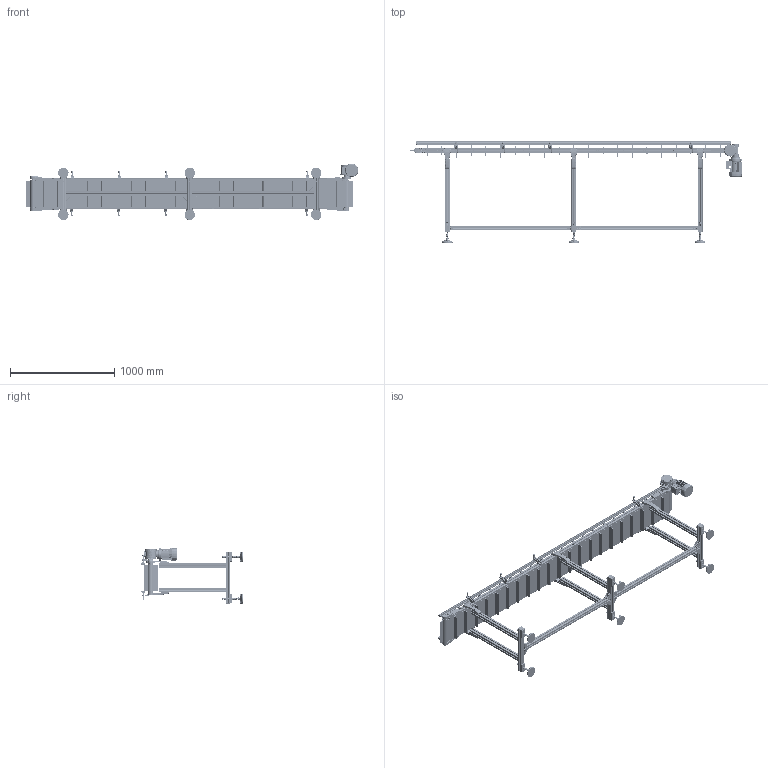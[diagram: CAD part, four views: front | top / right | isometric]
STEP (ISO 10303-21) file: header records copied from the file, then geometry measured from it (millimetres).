
FILE_DESCRIPTION (( 'STEP AP203' ), '1' );
FILE_NAME ('NASTRO_RETTILINEO_TAPPETO.step', '2026-04-24T07:44:04', ( 'Utente Windows' ), ( '' ), 'SwSTEP 2.0', 'SolidWorks 2024', '' );
FILE_SCHEMA (( 'CONFIG_CONTROL_DESIGN' ));
Length unit declared in the file: millimetre
Products named in the file (73): BLOCCO_BRACCIO_CH05P_CH05P; GAMBE_D50_Default<A macchina>; 084.711.005; VITI TE UNI 5739_M8x12 UNI 5739; 084.711.006_L2; BLOCCO_PERNO_50_49; 084.810.001; 084.302.000 DADI ALUSIC 13x13_084.302.004; 084.803.017; DADI ESAGONALI NORMALI UNI 5588_M6 UNI 5588; PIEDE; 084.305.003-1; CHIAVETTE_A 5x5x20 UNI 6604-69; 084.802.060_Default<A macchina>; FLANGIA_GAMBA_50; BLOCCO_TRAINO_50_STANDARD_49_DX; 084.302.000 DADI ALUSIC 13x13-1_084.302.009; TELAIO_50_STANDARD_Default<A macchina>; 084.711.010; 084.302.000 DADI ALUSIC 13x13-1_084.302.004; VITI TSEI UNI 5933_M4x12 UNI 5933; VITI TCEI UNI 5931_M6x12 UNI 5931; 084.802.008; 2010.000.068_L; TRAVERSA_50_Default<A macchina>; 084.303.001; 084.807.001_084.807.001; 084.712.002; 084.402.005; VITE_DADO_M5X12; 2010.000.068; 084.802.062; VITI TSEI UNI 5933 INOX_0412UNI5933A2; 084.301.000 VITI ALUSIC_084.301.003; BLOCCO_PERNO_50_RINVIO; 084.711.006_PER CAVA 8 PERNO ALTO 1; RONDELLE UNI 6592_8.4x17 UNI 6592; ANGOLARE_43; LAMIERA_STANDARD; 084.711.006_L1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
Assembly tree (206 placements, depth 4):
  NASTRO_RETTILINEO_TAPPETO
    TAPPETO_STANDARD
    TELAIO_50_STANDARD_Default<A macchina>
    LAMIERA_STANDARD  x2
    RULLO_50_Default<A macchina>  x2
    BLOCCO_PERNO_50_49
      084.810.001
      084.811.003
      RONDELLE FASCIA LARGA UNI 6593_8.4x32 UNI 6593
      VITI TE UNI 5739_M8x16 UNI 5739
      CHIAVETTE_A 5x5x20 UNI 6604-69
      CHIAVETTE_A 8x7x70 UNI 6604-69
    BLOCCO_TRAINO_50_STANDARD_49_DX
      084.807.001_084.807.001
      084.802.034_084.802.034
      084.301.000 VITI ALUSIC_084.301.003  x2
      084.302.000 DADI ALUSIC 13x13-1_084.302.004  x2
      BLOCCO_BRACCIO_CH05P_CH05P
        084.808.013
        084.802.062
        084.802.060_Default<A macchina>
        VITI TE UNI 5739_M8x12 UNI 5739  x4
        VITI TE UNI 5739_M6x12 UNI 5739  x4
        084.803.017
        VITI TCEI UNI 5931_M6x12 UNI 5931  x4
      084.802.065_Default<A macchina>
      VITI TCEI UNI 5931_M4x25 UNI 5931  x2
    BLOCCO_PERNO_50_RINVIO  x3
      084.811.004
      084.810.001
    BLOCCO_TRAINO_50_STANDARD
      084.807.002_084.807.002
      084.802.017_084.802.017
      084.301.000 VITI ALUSIC_084.301.003  x2
      084.302.000 DADI ALUSIC 13x13-1_084.302.004  x2
      VITI TSEI UNI 5933_M4x12 UNI 5933  x4
      084.802.071
      VITI TSEI UNI 5933 INOX_0412UNI5933A2  x2
    BLOCCO_RINVIO_50_STANDARD  x2
      084.807.002_084.807.002
      084.802.017_084.802.017
      084.802.008
      084.301.000 VITI ALUSIC_084.301.003
      084.302.000 DADI ALUSIC 13x13_084.302.004
      VITI TSEI UNI 5933_M4x10 UNI 5933
      084.802.071
    SPONDA_Default<A macchina>  x2
    084.711.006_PER CAVA 8 PERNO ALTO 1  x8
      084.711.006_L1
      084.711.006_L2
      084.711.007
      084.711.005
      084.711.010
      DADI ESAGONALI NORMALI UNI 5588_M6 UNI 5588
    084.712.002  x4
    GAMBE_D50_Default<A macchina>  x3
    FLANGIA_GAMBA_50
      084.302.000 DADI ALUSIC 13x13-1_084.302.004  x4
      RONDELLE UNI 6592_8.4x17 UNI 6592  x3
      084.301.000 VITI ALUSIC_084.301.003  x4
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Bounding box: 3177.3 x 972.1 x 534.6 mm (x, y, z)
Volume: 23400116.9 mm3; surface area: 17359978.8 mm2
Topology: 482 solids, 485 shells, 24378 faces, 62994 edges, 39730 vertices
Faces by surface type: plane 9516, cylinder 7988, bspline 2903, cone 2031, torus 1664, sphere 276
Entity records: 323352 total; most frequent: CARTESIAN_POINT 118580, ORIENTED_EDGE 42676, DIRECTION 37959, EDGE_CURVE 21338, VERTEX_POINT 13658, AXIS2_PLACEMENT_3D 13351, LINE 11257, VECTOR 11257
